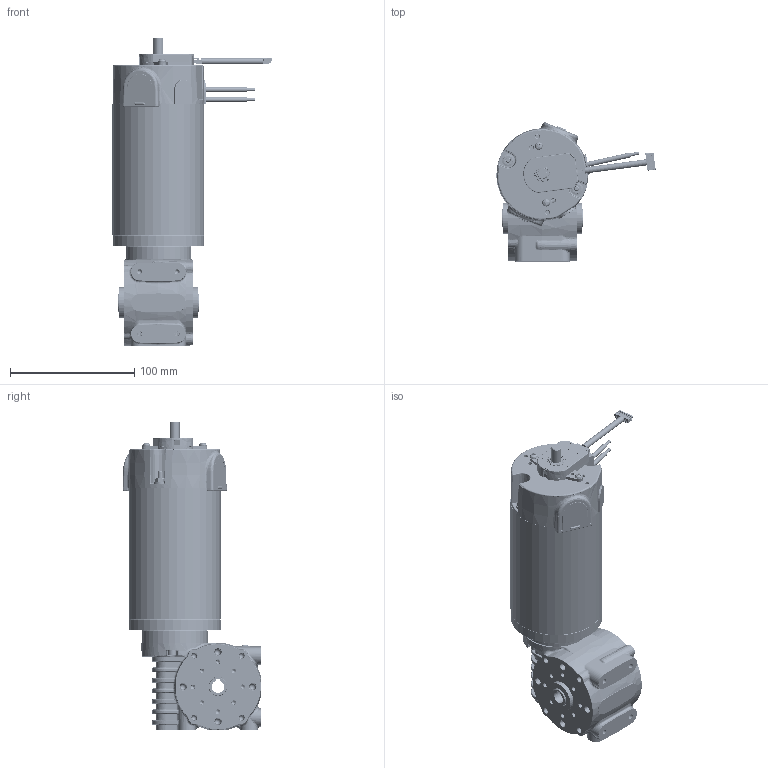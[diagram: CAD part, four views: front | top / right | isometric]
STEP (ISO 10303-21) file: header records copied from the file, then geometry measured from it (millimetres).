
FILE_DESCRIPTION (( 'STEP AP214' ), '1' );
FILE_NAME ('BRx70-60-GB80 - Incr Encoder.STEP', '2025-09-10T14:45:24', ( '' ), ( '' ), 'SwSTEP 2.0', 'SolidWorks 2023', '' );
FILE_SCHEMA (( 'AUTOMOTIVE_DESIGN' ));
Length unit declared in the file: millimetre
Products named in the file (1): BRx70-60-GB80 - Incr Encoder
Bounding box: 128.3 x 111.85 x 248.5 mm (x, y, z)
Surface area: 227047 mm2 (no closed solid volume)
Topology: 0 solids, 60 shells, 6592 faces, 17030 edges, 10633 vertices
Faces by surface type: plane 2323, cylinder 2169, cone 815, bspline 750, torus 469, sphere 66
Entity records: 324802 total; most frequent: CARTESIAN_POINT 104698, ORIENTED_EDGE 33724, DIRECTION 26685, EDGE_CURVE 16864, AXIS2_PLACEMENT_3D 10837, VERTEX_POINT 10633, EDGE_LOOP 7109, UNCERTAINTY_MEASURE_WITH_UNIT 6652
